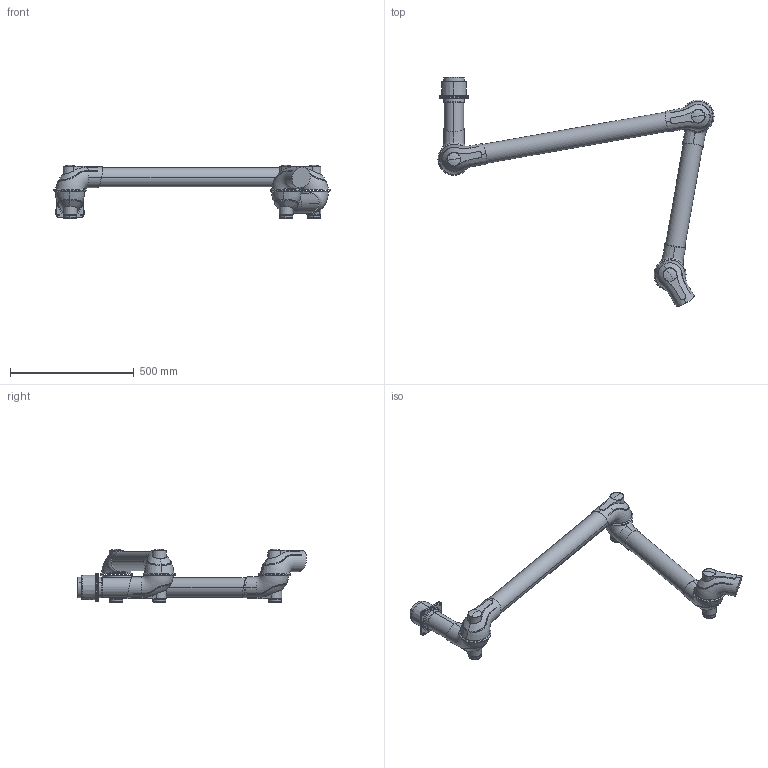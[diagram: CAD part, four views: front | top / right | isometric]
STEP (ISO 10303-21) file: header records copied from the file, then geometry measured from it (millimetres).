
FILE_DESCRIPTION((''),'2;1');
FILE_NAME('102333','2015-10-05T',('Tomas Bellgran'),(''),'PRO/ENGINEER BY PARAMETRIC TECHNOLOGY CORPORATION, 2013410','PRO/ENGINEER BY PARAMETRIC TECHNOLOGY CORPORATION, 2013410','');
FILE_SCHEMA(('AUTOMOTIVE_DESIGN { 1 0 10303 214 1 1 1 1 }'));
Length unit declared in the file: millimetre
Products named in the file (15): 100350; 100455; 102184; 105-5475-01; 102320; 9529063; 102181; 102325; 102188; 102314; 105-5475-02; 105-5481; 101156; 102312; 102333
Assembly tree (22 placements, depth 4):
  102333
    102320
      100350
      100455  x2
      102184
      105-5475-01
    9529063
    102325
      105-5475-01  x2
      102181
    102314
      102188
      105-5475-01
    102312
      105-5475-02  x2
      9529063
      101156
        105-5481
    101156  x2
      105-5481
Bounding box: 1114.32 x 924.4 x 215.04 mm (x, y, z)
Volume: 14921884.5 mm3; surface area: 991904.9 mm2
Topology: 17 solids, 18 shells, 627 faces, 1588 edges, 997 vertices
Faces by surface type: bspline 240, plane 153, cone 141, torus 50, cylinder 22, sphere 21
Entity records: 43779 total; most frequent: CARTESIAN_POINT 27689, ORIENTED_EDGE 1792, DIRECTION 1208, PRESENTATION_STYLE_ASSIGNMENT 1147, STYLED_ITEM 1147, CURVE_STYLE 896, EDGE_CURVE 896, PROPERTY_DEFINITION 674
